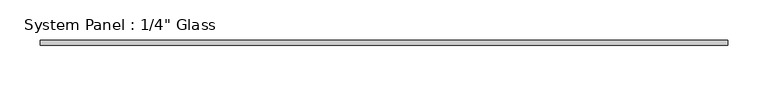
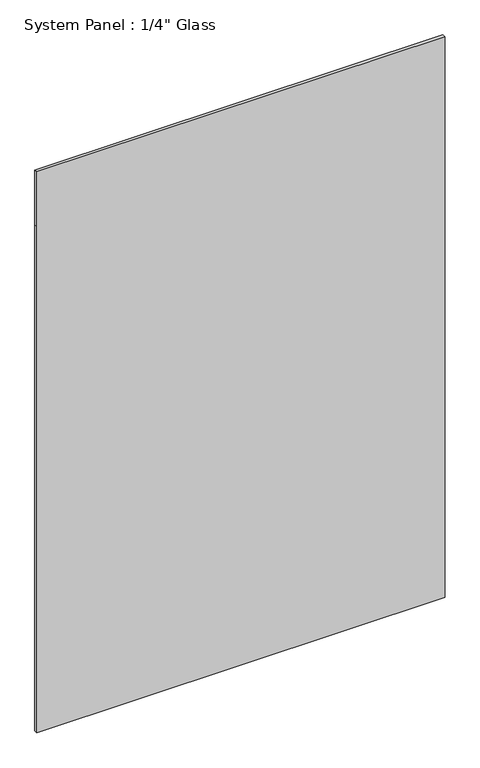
"""IFC4 building model written with IfcOpenShell, lengths in millimetres: plate geometry."""

from ifc_helpers import new_model, si_unit, frame, origin, place, context, project, spatial, polyline, outline, extrude, source, transform, mapped, element, save


def plate_09c1979e(model_context):
    return source(origin(), model_context, "Body", "SweptSolid", [
        extrude(outline(polyline([(0.0, -425.856477), (0.0, 425.856477), (1116.4405973, 425.856477), (1237.0923678, 425.856477), (1237.0923678, -425.856477), (1116.4405973, -425.856477), (0.0, -425.856477)])), frame((0.0, -3.175, 0.0), z_axis=(0.0, 1.0, 0.0), x_axis=(0.0, 0.0, 1.0)), (0.0, 0.0, 1.0), 6.35),
    ])


if __name__ == "__main__":
    model = new_model("IFC4")
    model_context = context("Model", 3, world=origin())
    ifc_project = project(units=[si_unit("LENGTHUNIT", "METRE", prefix="MILLI")], contexts=[model_context])
    site = spatial("IfcSite", under=ifc_project)
    building = spatial("IfcBuilding", under=site)
    placement = place(None, origin())
    plate_shape = plate_09c1979e(model_context)
    element("IfcPlate", 1, ObjectType="System Panel : 1/4\" Glass", at=placement, inside=building, context=model_context, shape_type="MappedRepresentation", body=[
        mapped(plate_shape, transform((0.0, 0.0, 0.0), x_axis=(1.0, 0.0, 0.0), y_axis=(0.0, 1.0, 0.0), z_axis=(0.0, 0.0, 1.0))),
    ])
    save(model, "model.ifc")
